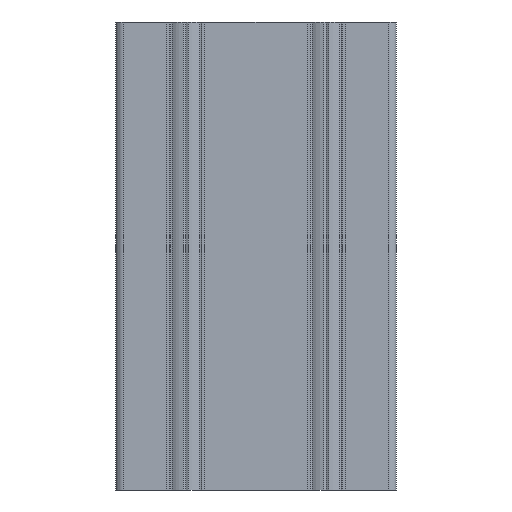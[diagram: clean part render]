
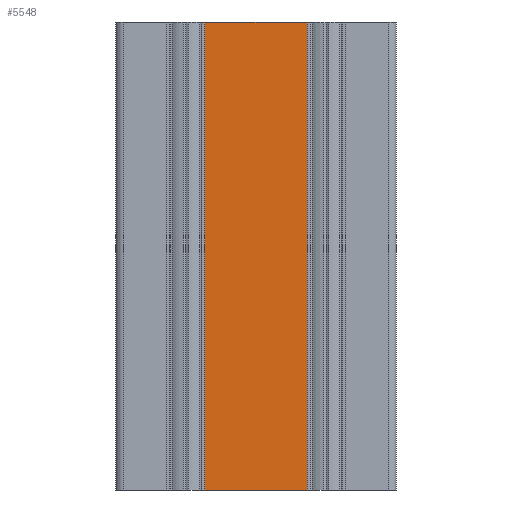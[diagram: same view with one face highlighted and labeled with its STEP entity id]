
A CAD part, front view. The second image highlights one B-rep face of the part: STEP entity #5548.
In plain terms, the highlighted planar face has unit normal (0, -1, 0).
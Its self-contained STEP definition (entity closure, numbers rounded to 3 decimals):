
#5492=CARTESIAN_POINT('',(765.249,-2.108,150.0));
#5493=VERTEX_POINT('',#5492);
#5500=CARTESIAN_POINT('',(765.249,-2.108,0.0));
#5501=VERTEX_POINT('',#5500);
#5502=CARTESIAN_POINT('',(765.249,-2.108,0.0));
#5503=DIRECTION('',(0.0,0.0,1.0));
#5504=VECTOR('',#5503,150.0);
#5505=LINE('',#5502,#5504);
#5506=EDGE_CURVE('',#5501,#5493,#5505,.T.);
#5518=CARTESIAN_POINT('',(765.249,-2.108,0.0));
#5519=DIRECTION('',(0.0,-1.0,0.0));
#5520=DIRECTION('',(0.0,0.0,-1.0));
#5521=AXIS2_PLACEMENT_3D('',#5518,#5519,#5520);
#5522=PLANE('',#5521);
#5523=CARTESIAN_POINT('',(732.449,-2.108,150.0));
#5524=VERTEX_POINT('',#5523);
#5525=CARTESIAN_POINT('',(765.249,-2.108,150.0));
#5526=DIRECTION('',(-1.0,0.0,0.0));
#5527=VECTOR('',#5526,32.8);
#5528=LINE('',#5525,#5527);
#5529=EDGE_CURVE('',#5493,#5524,#5528,.T.);
#5530=ORIENTED_EDGE('',*,*,#5529,.T.);
#5531=CARTESIAN_POINT('',(732.449,-2.108,0.0));
#5532=VERTEX_POINT('',#5531);
#5533=CARTESIAN_POINT('',(732.449,-2.108,0.0));
#5534=DIRECTION('',(0.0,0.0,1.0));
#5535=VECTOR('',#5534,150.0);
#5536=LINE('',#5533,#5535);
#5537=EDGE_CURVE('',#5532,#5524,#5536,.T.);
#5538=ORIENTED_EDGE('',*,*,#5537,.F.);
#5539=CARTESIAN_POINT('',(732.449,-2.108,0.0));
#5540=DIRECTION('',(1.0,0.0,0.0));
#5541=VECTOR('',#5540,32.8);
#5542=LINE('',#5539,#5541);
#5543=EDGE_CURVE('',#5532,#5501,#5542,.T.);
#5544=ORIENTED_EDGE('',*,*,#5543,.T.);
#5545=ORIENTED_EDGE('',*,*,#5506,.T.);
#5546=EDGE_LOOP('',(#5530,#5538,#5544,#5545));
#5547=FACE_OUTER_BOUND('',#5546,.T.);
#5548=ADVANCED_FACE('',(#5547),#5522,.T.);
